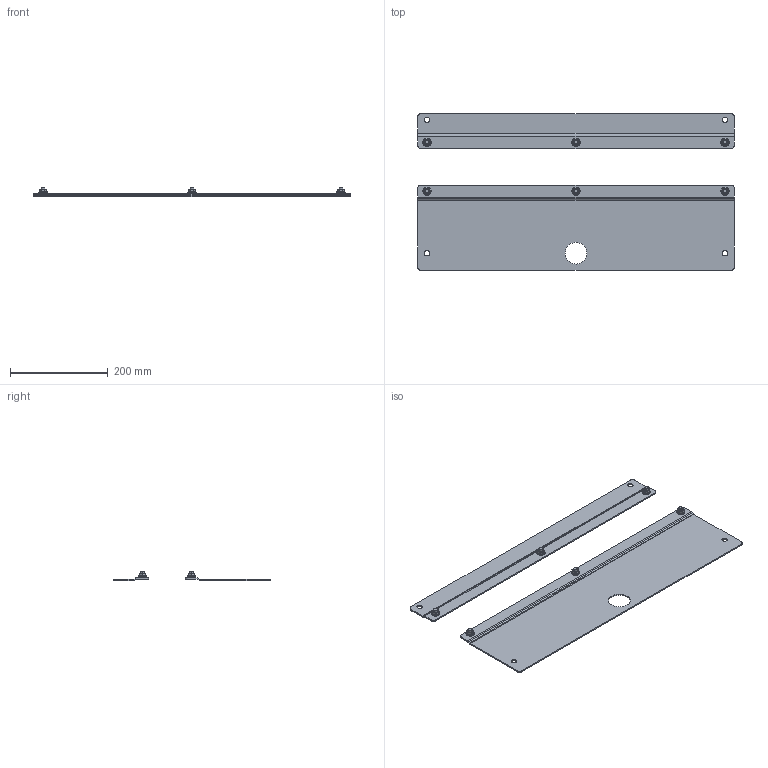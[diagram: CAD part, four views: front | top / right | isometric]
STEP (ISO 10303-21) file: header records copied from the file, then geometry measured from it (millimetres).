
FILE_DESCRIPTION((''),'2;1');
FILE_NAME('MODEL-066-VRMS_ASM','2021-09-16T09:42:33',('mikek'),('SAGINAW CONTROL & ENGINEERING'),'CREO PARAMETRIC BY PTC INC, 2017260','CREO PARAMETRIC BY PTC INC, 2017260','');
FILE_SCHEMA(('AUTOMOTIVE_DESIGN { 1 0 10303 214 1 1 1 1 }'));
Length unit declared in the file: inch
Products named in the file (5): MODEL-066-VRMS-TP-STRP; MODEL-066-VRMS-BTM-STRP; 100059; 100921; MODEL-066-VRMS_ASM
Assembly tree (14 placements, depth 2):
  MODEL-066-VRMS_ASM
    MODEL-066-VRMS-TP-STRP
    MODEL-066-VRMS-BTM-STRP
    100059  x6
    100921  x6
Bounding box: 647.7 x 320.67 x 18.95 mm (x, y, z)
Volume: 427437.8 mm3; surface area: 333449 mm2
Topology: 14 solids, 14 shells, 428 faces, 910 edges, 516 vertices
Faces by surface type: cylinder 110, plane 102, bspline 72, torus 60, sphere 48, cone 36
Entity records: 7025 total; most frequent: CARTESIAN_POINT 1607, DIRECTION 706, ORIENTED_EDGE 600, PRESENTATION_STYLE_ASSIGNMENT 304, STYLED_ITEM 304, CURVE_STYLE 300, EDGE_CURVE 300, AXIS2_PLACEMENT_3D 290
